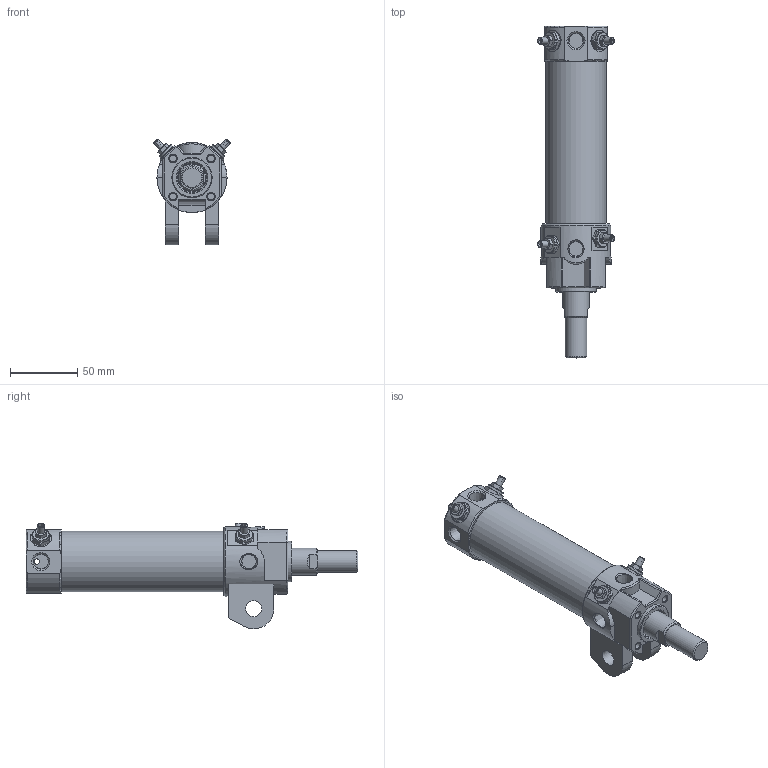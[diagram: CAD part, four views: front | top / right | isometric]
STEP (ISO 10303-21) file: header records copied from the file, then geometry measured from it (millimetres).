
FILE_DESCRIPTION((''),'2;1');
FILE_NAME('I:\3D電子目錄\氣缸\DCK\DCK\DCK-1B-40x75.stp','2008-02-25T16:08:22',('Administrator'),(''),'Autodesk Inventor 11','Autodesk Inventor 11','');
FILE_SCHEMA(('AUTOMOTIVE_DESIGN { 1 0 10303 214 1 1 1 1 }'));
Length unit declared in the file: millimetre
Products named in the file (1): DCK-1B-40
Bounding box: 57.13 x 246.5 x 78.56 mm (x, y, z)
Volume: 194072.6 mm3; surface area: 85556.9 mm2
Topology: 11 solids, 11 shells, 524 faces, 1220 edges, 764 vertices
Faces by surface type: bspline 161, plane 148, cylinder 127, cone 59, torus 27, sphere 2
Full cylindrical faces by diameter (mm): 2 x1, 3 x3, 3.8 x2, 4 x4, 4.6 x2, 5 x6, 5.1 x4, 5.2 x2, 7 x1, 7.25 x1, 8 x2, 8.3 x1, 10 x2, 12 x2, 12.8 x2, 16 x2, 20 x1, 21 x1, 22 x3, 23 x1, 24.7 x1, 26 x1, 28 x1, 29 x1, 30 x1, 33 x1, 40 x1, 42 x2, 45 x1, 52 x1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
Entity records: 25670 total; most frequent: CARTESIAN_POINT 15422, ORIENTED_EDGE 2104, DIRECTION 1851, EDGE_CURVE 1052, AXIS2_PLACEMENT_3D 764, EDGE_LOOP 730, VERTEX_POINT 724, FACE_OUTER_BOUND 522
